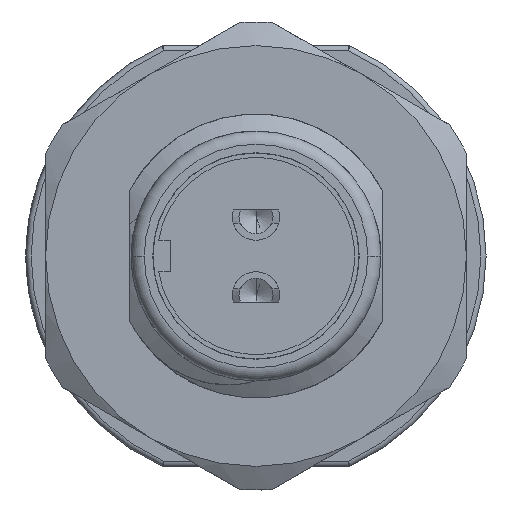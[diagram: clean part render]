
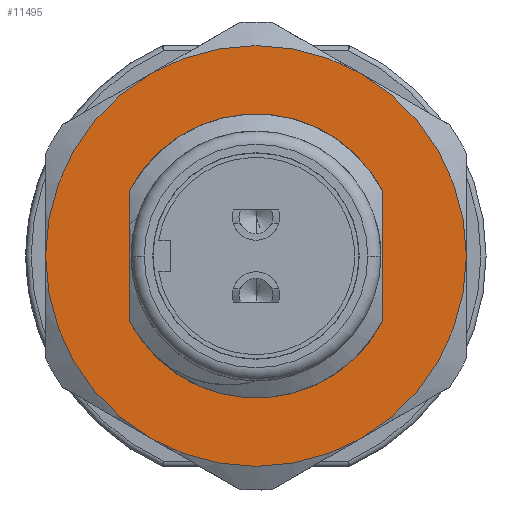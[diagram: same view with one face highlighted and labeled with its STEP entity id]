
A CAD part, left-side view. The second image highlights one B-rep face of the part: STEP entity #11495.
In plain terms, the highlighted planar face has unit normal (-1, 0, 0).
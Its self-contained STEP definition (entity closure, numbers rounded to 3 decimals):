
#256=CARTESIAN_POINT('',(6.,8.9,-8.901));
#257=DIRECTION('',(1.,0.,0.));
#258=DIRECTION('',(0.,-0.951,0.309));
#259=AXIS2_PLACEMENT_3D('',#256,#257,#258);
#261=CARTESIAN_POINT('',(6.,4.195,-9.552));
#314=CARTESIAN_POINT('',(6.,4.383,-7.431));
#980=CARTESIAN_POINT('',(6.,4.195,-9.552));
#981=CARTESIAN_POINT('',(6.,4.212,-9.759));
#982=CARTESIAN_POINT('',(6.,4.274,-10.167));
#983=CARTESIAN_POINT('',(6.,4.447,-10.767));
#984=CARTESIAN_POINT('',(6.,4.692,-11.332));
#985=CARTESIAN_POINT('',(6.,5.01,-11.868));
#986=CARTESIAN_POINT('',(6.,5.412,-12.38));
#987=CARTESIAN_POINT('',(6.,5.905,-12.859));
#988=CARTESIAN_POINT('',(6.,6.512,-13.299));
#989=CARTESIAN_POINT('',(6.,7.238,-13.667));
#990=CARTESIAN_POINT('',(6.,8.039,-13.916));
#991=CARTESIAN_POINT('',(6.,8.88,-14.032));
#992=CARTESIAN_POINT('',(6.,9.727,-14.005));
#993=CARTESIAN_POINT('',(6.,10.526,-13.848));
#994=CARTESIAN_POINT('',(6.,11.238,-13.591));
#995=CARTESIAN_POINT('',(6.,11.868,-13.259));
#996=CARTESIAN_POINT('',(6.,12.427,-12.863));
#997=CARTESIAN_POINT('',(6.,12.917,-12.412));
#998=CARTESIAN_POINT('',(6.,13.346,-11.905));
#999=CARTESIAN_POINT('',(6.,13.589,-11.533));
#1000=CARTESIAN_POINT('',(6.,13.7,-11.338));
#1002=CARTESIAN_POINT('',(6.,13.7,-11.338));
#1038=CARTESIAN_POINT('',(6.,8.9,-8.901));
#1039=DIRECTION('',(1.,0.,0.));
#1040=DIRECTION('',(0.,0.5,-0.866));
#1041=AXIS2_PLACEMENT_3D('',#1038,#1039,#1040);
#1043=CARTESIAN_POINT('',(6.,8.9,-8.901));
#1044=DIRECTION('',(1.,0.,0.));
#1045=DIRECTION('',(0.,1.,0.));
#1046=AXIS2_PLACEMENT_3D('',#1043,#1044,#1045);
#1048=CARTESIAN_POINT('',(6.,8.9,-8.901));
#1049=DIRECTION('',(1.,0.,0.));
#1050=DIRECTION('',(0.,0.5,0.866));
#1051=AXIS2_PLACEMENT_3D('',#1048,#1049,#1050);
#1053=CARTESIAN_POINT('',(6.,8.9,-8.901));
#1054=DIRECTION('',(1.,0.,0.));
#1055=DIRECTION('',(0.,-0.5,0.866));
#1056=AXIS2_PLACEMENT_3D('',#1053,#1054,#1055);
#1058=CARTESIAN_POINT('',(6.,8.9,-8.901));
#1059=DIRECTION('',(1.,0.,0.));
#1060=DIRECTION('',(0.,-1.,0.));
#1061=AXIS2_PLACEMENT_3D('',#1058,#1059,#1060);
#1063=CARTESIAN_POINT('',(6.,8.9,-8.901));
#1064=DIRECTION('',(1.,0.,0.));
#1065=DIRECTION('',(0.,-0.5,-0.866));
#1066=AXIS2_PLACEMENT_3D('',#1063,#1064,#1065);
#1089=CARTESIAN_POINT('',(6.,13.7,-6.555));
#1091=CARTESIAN_POINT('',(6.,13.7,-6.555));
#1092=CARTESIAN_POINT('',(6.,13.584,-6.343));
#1093=CARTESIAN_POINT('',(6.,13.326,-5.94));
#1094=CARTESIAN_POINT('',(6.,12.867,-5.399));
#1095=CARTESIAN_POINT('',(6.,12.329,-4.914));
#1096=CARTESIAN_POINT('',(6.,11.706,-4.493));
#1097=CARTESIAN_POINT('',(6.,10.975,-4.145));
#1098=CARTESIAN_POINT('',(6.,10.149,-3.905));
#1099=CARTESIAN_POINT('',(6.,9.305,-3.811));
#1100=CARTESIAN_POINT('',(6.,8.515,-3.851));
#1101=CARTESIAN_POINT('',(6.,7.765,-4.004));
#1102=CARTESIAN_POINT('',(6.,7.031,-4.276));
#1103=CARTESIAN_POINT('',(6.,6.362,-4.653));
#1104=CARTESIAN_POINT('',(6.,5.8,-5.094));
#1105=CARTESIAN_POINT('',(6.,5.325,-5.588));
#1106=CARTESIAN_POINT('',(6.,4.921,-6.145));
#1107=CARTESIAN_POINT('',(6.,4.597,-6.767));
#1108=CARTESIAN_POINT('',(6.,4.444,-7.205));
#1109=CARTESIAN_POINT('',(6.,4.383,-7.431));
#1225=DIRECTION('',(0.,0.,1.));
#1226=VECTOR('',#1225,4.783);
#1227=CARTESIAN_POINT('',(6.,13.7,-11.338));
#1228=LINE('',#1227,#1226);
#1327=CARTESIAN_POINT('',(6.,0.9,
-8.901));
#1358=CARTESIAN_POINT('',(6.,12.9,-1.973));
#10141=VERTEX_POINT('',#1358);
#10148=VERTEX_POINT('',#1327);
#10149=CARTESIAN_POINT('',(6.,4.9,-1.973));
#10150=VERTEX_POINT('',#10149);
#10155=CARTESIAN_POINT('',(6.,16.9,-8.901));
#10156=VERTEX_POINT('',#10155);
#10162=CARTESIAN_POINT('',(6.,12.9,-15.829));
#10163=VERTEX_POINT('',#10162);
#10168=CARTESIAN_POINT('',(6.,4.9,-15.829));
#10169=VERTEX_POINT('',#10168);
#10178=VERTEX_POINT('',#314);
#10179=VERTEX_POINT('',#261);
#10180=VERTEX_POINT('',#1089);
#10181=VERTEX_POINT('',#1002);
#11468=CARTESIAN_POINT('',(6.,8.9,-8.901));
#11469=DIRECTION('',(-1.,0.,0.));
#11470=DIRECTION('',(0.,-1.,0.));
#11471=AXIS2_PLACEMENT_3D('',#11468,#11469,#11470);
#11472=PLANE('',#11471);
#11474=ORIENTED_EDGE('',*,*,#11473,.T.);
#11476=ORIENTED_EDGE('',*,*,#11475,.T.);
#11478=ORIENTED_EDGE('',*,*,#11477,.T.);
#11480=ORIENTED_EDGE('',*,*,#11479,.T.);
#11482=ORIENTED_EDGE('',*,*,#11481,.T.);
#11484=ORIENTED_EDGE('',*,*,#11483,.T.);
#11485=EDGE_LOOP('',(#11474,#11476,#11478,#11480,#11482,#11484));
#11486=FACE_OUTER_BOUND('',#11485,.F.);
#11487=ORIENTED_EDGE('',*,*,#10429,.F.);
#11489=ORIENTED_EDGE('',*,*,#11488,.F.);
#11491=ORIENTED_EDGE('',*,*,#11490,.F.);
#11492=ORIENTED_EDGE('',*,*,#11457,.F.);
#11493=EDGE_LOOP('',(#11487,#11489,#11491,#11492));
#11494=FACE_BOUND('',#11493,.F.);
#260=CIRCLE('',#259,4.75);
#1001=B_SPLINE_CURVE_WITH_KNOTS('',3,(#980,#981,#982,#983,#984,#985,#986,#987,
#988,#989,#990,#991,#992,#993,#994,#995,#996,#997,#998,#999,#1000),
.UNSPECIFIED.,.F.,.F.,(4,1,1,1,1,1,1,1,1,1,1,1,1,1,1,1,1,1,4),(0.,
0.056,0.111,0.167,0.222,
0.278,0.333,0.389,0.444,0.5,
0.556,0.611,0.667,0.722,
0.778,0.833,0.889,0.944,1.),
.UNSPECIFIED.);
#1042=CIRCLE('',#1041,8.);
#1047=CIRCLE('',#1046,8.);
#1052=CIRCLE('',#1051,8.);
#1057=CIRCLE('',#1056,8.);
#1062=CIRCLE('',#1061,8.);
#1067=CIRCLE('',#1066,8.);
#1110=B_SPLINE_CURVE_WITH_KNOTS('',3,(#1091,#1092,#1093,#1094,#1095,#1096,#1097,
#1098,#1099,#1100,#1101,#1102,#1103,#1104,#1105,#1106,#1107,#1108,#1109),
.UNSPECIFIED.,.F.,.F.,(4,1,1,1,1,1,1,1,1,1,1,1,1,1,1,1,4),(0.,0.063,0.125,
0.188,0.25,0.313,0.375,0.438,0.5,0.563,0.625,0.688,
0.75,0.813,0.875,0.938,1.),.UNSPECIFIED.);
#10429=EDGE_CURVE('',#10178,#10179,#260,.T.);
#11457=EDGE_CURVE('',#10179,#10181,#1001,.T.);
#11473=EDGE_CURVE('',#10163,#10156,#1042,.T.);
#11475=EDGE_CURVE('',#10156,#10141,#1047,.T.);
#11477=EDGE_CURVE('',#10141,#10150,#1052,.T.);
#11479=EDGE_CURVE('',#10150,#10148,#1057,.T.);
#11481=EDGE_CURVE('',#10148,#10169,#1062,.T.);
#11483=EDGE_CURVE('',#10169,#10163,#1067,.T.);
#11488=EDGE_CURVE('',#10180,#10178,#1110,.T.);
#11490=EDGE_CURVE('',#10181,#10180,#1228,.T.);
#11495=ADVANCED_FACE('',(#11486,#11494),#11472,.T.);
